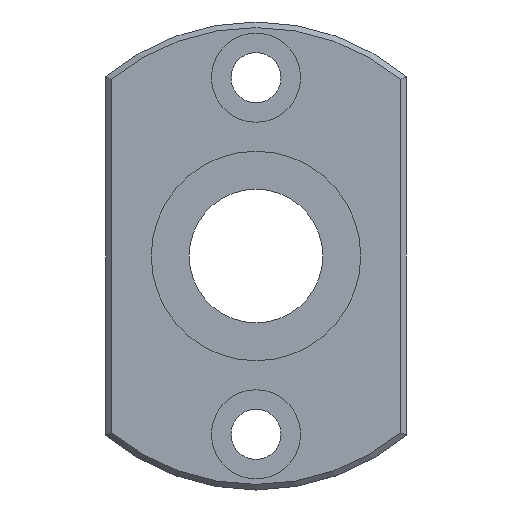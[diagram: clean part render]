
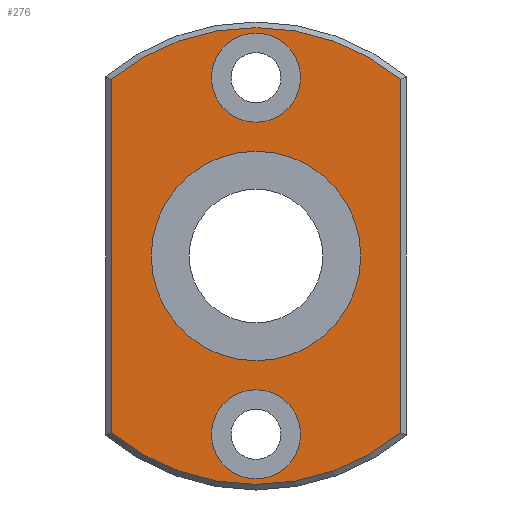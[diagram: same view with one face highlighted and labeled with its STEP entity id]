
A CAD part, left-side view. The second image highlights one B-rep face of the part: STEP entity #276.
In plain terms, the highlighted planar face has unit normal (-1, 0, 0).
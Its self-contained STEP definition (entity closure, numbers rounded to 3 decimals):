
#59=CARTESIAN_POINT('',(0.0,13.,-15.851));
#60=VERTEX_POINT('',#59);
#68=CARTESIAN_POINT('',(0.0,13.0,15.851));
#69=VERTEX_POINT('',#68);
#70=CARTESIAN_POINT('',(0.0,13.,-15.851));
#71=DIRECTION('',(0.0,0.0,1.0));
#72=VECTOR('',#71,31.702);
#73=LINE('',#70,#72);
#74=EDGE_CURVE('',#60,#69,#73,.T.);
#101=CARTESIAN_POINT('',(0.0,-13.,15.851));
#102=VERTEX_POINT('',#101);
#103=CARTESIAN_POINT('',(0.0,0.0,0.0));
#104=DIRECTION('',(1.0,0.0,0.0));
#105=DIRECTION('',(0.0,0.0,1.0));
#106=AXIS2_PLACEMENT_3D('',#103,#104,#105);
#107=CIRCLE('',#106,20.5);
#108=EDGE_CURVE('',#69,#102,#107,.T.);
#134=CARTESIAN_POINT('',(0.0,-13.,-15.851));
#135=VERTEX_POINT('',#134);
#136=CARTESIAN_POINT('',(0.0,-13.,15.851));
#137=DIRECTION('',(0.0,0.0,-1.0));
#138=VECTOR('',#137,31.702);
#139=LINE('',#136,#138);
#140=EDGE_CURVE('',#102,#135,#139,.T.);
#165=CARTESIAN_POINT('',(0.0,0.0,0.0));
#166=DIRECTION('',(1.0,0.0,0.0));
#167=DIRECTION('',(0.0,0.0,-1.0));
#168=AXIS2_PLACEMENT_3D('',#165,#166,#167);
#169=CIRCLE('',#168,20.5);
#170=EDGE_CURVE('',#135,#60,#169,.T.);
#232=CARTESIAN_POINT('',(0.0,0.0,9.95));
#233=DIRECTION('',(-1.0,0.0,0.0));
#234=DIRECTION('',(0.0,0.0,1.0));
#235=AXIS2_PLACEMENT_3D('',#232,#233,#234);
#236=PLANE('',#235);
#237=ORIENTED_EDGE('',*,*,#74,.F.);
#238=ORIENTED_EDGE('',*,*,#170,.F.);
#239=ORIENTED_EDGE('',*,*,#140,.F.);
#240=ORIENTED_EDGE('',*,*,#108,.F.);
#241=EDGE_LOOP('',(#237,#238,#239,#240));
#242=FACE_OUTER_BOUND('',#241,.T.);
#243=CARTESIAN_POINT('',(0.,0.0,9.4));
#244=VERTEX_POINT('',#243);
#245=CARTESIAN_POINT('',(0.,0.0,0.0));
#246=DIRECTION('',(-1.0,0.0,0.0));
#247=DIRECTION('',(0.0,0.0,1.0));
#248=AXIS2_PLACEMENT_3D('',#245,#246,#247);
#249=CIRCLE('',#248,9.4);
#250=EDGE_CURVE('',#244,#244,#249,.T.);
#251=ORIENTED_EDGE('',*,*,#250,.F.);
#252=EDGE_LOOP('',(#251));
#253=FACE_BOUND('',#252,.T.);
#254=CARTESIAN_POINT('',(0.0,4.,-16.0));
#255=VERTEX_POINT('',#254);
#256=CARTESIAN_POINT('',(0.0,0.,-16.0));
#257=DIRECTION('',(1.0,0.0,0.0));
#258=DIRECTION('',(0.0,1.0,0.0));
#259=AXIS2_PLACEMENT_3D('',#256,#257,#258);
#260=CIRCLE('',#259,4.0);
#261=EDGE_CURVE('',#255,#255,#260,.T.);
#262=ORIENTED_EDGE('',*,*,#261,.T.);
#263=EDGE_LOOP('',(#262));
#264=FACE_BOUND('',#263,.T.);
#265=CARTESIAN_POINT('',(0.0,4.,16.0));
#266=VERTEX_POINT('',#265);
#267=CARTESIAN_POINT('',(0.0,0.,16.0));
#268=DIRECTION('',(1.0,0.0,0.0));
#269=DIRECTION('',(0.0,1.0,0.0));
#270=AXIS2_PLACEMENT_3D('',#267,#268,#269);
#271=CIRCLE('',#270,4.0);
#272=EDGE_CURVE('',#266,#266,#271,.T.);
#273=ORIENTED_EDGE('',*,*,#272,.T.);
#274=EDGE_LOOP('',(#273));
#275=FACE_BOUND('',#274,.T.);
#276=ADVANCED_FACE('',(#242,#253,#264,#275),#236,.T.);
